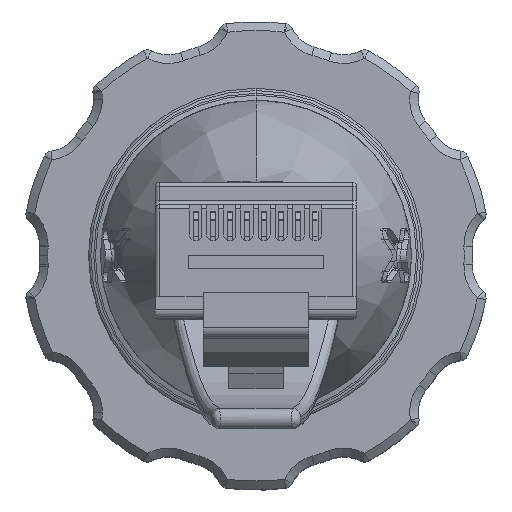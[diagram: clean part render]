
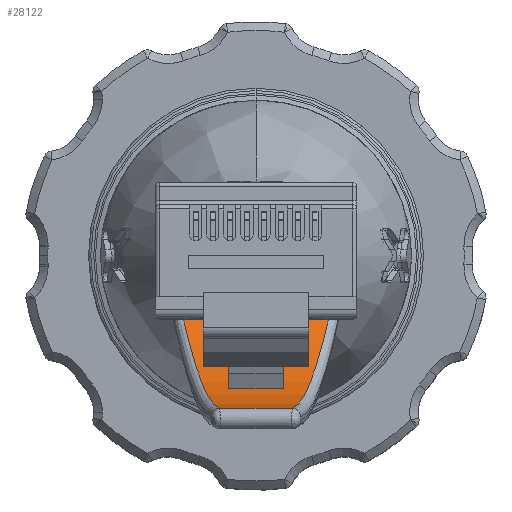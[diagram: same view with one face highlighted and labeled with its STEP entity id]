
A CAD part, top view. The second image highlights one B-rep face of the part: STEP entity #28122.
In plain terms, the highlighted cylindrical face has radius 12.299 mm (diameter 24.598 mm), a partial arc.
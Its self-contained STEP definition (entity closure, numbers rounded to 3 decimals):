
#797 = CARTESIAN_POINT ( 'NONE',  ( -4.027, -4.682, 167.442 ) ) ;
#860 = CARTESIAN_POINT ( 'NONE',  ( 2.098, -9.122, 176.296 ) ) ;
#1085 = CARTESIAN_POINT ( 'NONE',  ( -3.766, -5.697, 168.383 ) ) ;
#4336 = EDGE_CURVE ( 'NONE', #19164, #8318, #5344, .T. ) ;
#4975 = CARTESIAN_POINT ( 'NONE',  ( -3.853, -5.371, 168.057 ) ) ;
#5344 = LINE ( 'NONE', #860, #31312 ) ;
#5519 = CARTESIAN_POINT ( 'NONE',  ( 3.378, -3.936, 166.883 ) ) ;
#5587 = CARTESIAN_POINT ( 'NONE',  ( -2.185, -9.098, 175.829 ) ) ;
#6071 = CARTESIAN_POINT ( 'NONE',  ( 2.272, -9.048, 175.367 ) ) ;
#7046 = EDGE_CURVE ( 'NONE', #15784, #10971, #36913, .T. ) ;
#8318 = VERTEX_POINT ( 'NONE', #45910 ) ;
#9031 = CARTESIAN_POINT ( 'NONE',  ( 4.201, -3.936, 166.883 ) ) ;
#9496 = CARTESIAN_POINT ( 'NONE',  ( 3.378, 3.161, 176.928 ) ) ;
#10280 = CARTESIAN_POINT ( 'NONE',  ( 4.201, -3.936, 166.883 ) ) ;
#10971 = VERTEX_POINT ( 'NONE', #48935 ) ;
#11155 = CARTESIAN_POINT ( 'NONE',  ( 3.237, -7.386, 170.586 ) ) ;
#14866 = CARTESIAN_POINT ( 'NONE',  ( -2.272, -9.048, 175.367 ) ) ;
#15059 = CARTESIAN_POINT ( 'NONE',  ( 2.535, -8.791, 173.992 ) ) ;
#15163 = CARTESIAN_POINT ( 'NONE',  ( -4.114, -4.317, 167.152 ) ) ;
#15356 = CARTESIAN_POINT ( 'NONE',  ( 2.098, -9.122, 176.296 ) ) ;
#15784 = VERTEX_POINT ( 'NONE', #9031 ) ;
#18047 = B_SPLINE_CURVE_WITH_KNOTS ( 'NONE', 3,
 ( #10280, #33036, #33624, #51184, #28544, #28836, #29125, #24052, #11155, #42260, #38051, #15059, #47013, #6071, #56265, #15356 ),
 .UNSPECIFIED., .F., .F.,
 ( 4, 2, 2, 2, 2, 2, 2, 4 ),
 ( 0., 0.125, 0.25, 0.375, 0.5, 0.75, 0.875, 1. ),
 .UNSPECIFIED. ) ;
#18451 = DIRECTION ( 'NONE',  ( 0., -0.525, -0.851 ) ) ;
#18750 = DIRECTION ( 'NONE',  ( -1., 0., 0. ) ) ;
#19119 = DIRECTION ( 'NONE',  ( -1., 0., 0. ) ) ;
#19164 = VERTEX_POINT ( 'NONE', #20001 ) ;
#20001 = CARTESIAN_POINT ( 'NONE',  ( 2.098, -9.122, 176.296 ) ) ;
#20635 = B_SPLINE_CURVE_WITH_KNOTS ( 'NONE', 3,
 ( #42652, #5587, #14866, #56355, #32250, #56058, #51580, #33134, #32552, #47120, #51283, #1085, #4975, #797, #15163, #50986 ),
 .UNSPECIFIED., .F., .F.,
 ( 4, 2, 2, 2, 2, 2, 2, 4 ),
 ( 0., 0.125, 0.25, 0.5, 0.625, 0.75, 0.875, 1. ),
 .UNSPECIFIED. ) ;
#22034 = EDGE_LOOP ( 'NONE', ( #28978, #34955, #39107, #31516 ) ) ;
#24052 = CARTESIAN_POINT ( 'NONE',  ( 3.326, -7.138, 170.191 ) ) ;
#27438 = FACE_OUTER_BOUND ( 'NONE', #22034, .T. ) ;
#28122 = ADVANCED_FACE ( 'NONE', ( #27438 ), #36373, .F. ) ;
#28544 = CARTESIAN_POINT ( 'NONE',  ( 3.766, -5.697, 168.383 ) ) ;
#28836 = CARTESIAN_POINT ( 'NONE',  ( 3.591, -6.311, 169.069 ) ) ;
#28978 = ORIENTED_EDGE ( 'NONE', *, *, #41265, .F. ) ;
#29125 = CARTESIAN_POINT ( 'NONE',  ( 3.503, -6.6, 169.431 ) ) ;
#31312 = VECTOR ( 'NONE', #19119, 1000. ) ;
#31516 = ORIENTED_EDGE ( 'NONE', *, *, #4336, .F. ) ;
#32250 = CARTESIAN_POINT ( 'NONE',  ( -2.535, -8.791, 173.992 ) ) ;
#32552 = CARTESIAN_POINT ( 'NONE',  ( -3.326, -7.138, 170.191 ) ) ;
#33036 = CARTESIAN_POINT ( 'NONE',  ( 4.114, -4.317, 167.152 ) ) ;
#33134 = CARTESIAN_POINT ( 'NONE',  ( -3.237, -7.386, 170.586 ) ) ;
#33624 = CARTESIAN_POINT ( 'NONE',  ( 4.027, -4.682, 167.442 ) ) ;
#34955 = ORIENTED_EDGE ( 'NONE', *, *, #7046, .T. ) ;
#36373 = CYLINDRICAL_SURFACE ( 'NONE', #46017, 12.299 ) ;
#36913 = LINE ( 'NONE', #5519, #43043 ) ;
#38051 = CARTESIAN_POINT ( 'NONE',  ( 2.799, -8.408, 172.651 ) ) ;
#39107 = ORIENTED_EDGE ( 'NONE', *, *, #44380, .F. ) ;
#41265 = EDGE_CURVE ( 'NONE', #15784, #19164, #18047, .T. ) ;
#42018 = DIRECTION ( 'NONE',  ( -1., 0., 0. ) ) ;
#42260 = CARTESIAN_POINT ( 'NONE',  ( 2.973, -8.057, 171.799 ) ) ;
#42652 = CARTESIAN_POINT ( 'NONE',  ( -2.098, -9.122, 176.296 ) ) ;
#43043 = VECTOR ( 'NONE', #42018, 1000. ) ;
#44380 = EDGE_CURVE ( 'NONE', #8318, #10971, #20635, .T. ) ;
#45910 = CARTESIAN_POINT ( 'NONE',  ( -2.098, -9.122, 176.296 ) ) ;
#46017 = AXIS2_PLACEMENT_3D ( 'NONE', #9496, #18750, #18451 ) ;
#47013 = CARTESIAN_POINT ( 'NONE',  ( 2.446, -8.894, 174.449 ) ) ;
#47120 = CARTESIAN_POINT ( 'NONE',  ( -3.503, -6.6, 169.431 ) ) ;
#48935 = CARTESIAN_POINT ( 'NONE',  ( -4.201, -3.936, 166.883 ) ) ;
#50986 = CARTESIAN_POINT ( 'NONE',  ( -4.201, -3.936, 166.883 ) ) ;
#51184 = CARTESIAN_POINT ( 'NONE',  ( 3.853, -5.371, 168.057 ) ) ;
#51283 = CARTESIAN_POINT ( 'NONE',  ( -3.591, -6.311, 169.069 ) ) ;
#51580 = CARTESIAN_POINT ( 'NONE',  ( -2.973, -8.057, 171.799 ) ) ;
#56058 = CARTESIAN_POINT ( 'NONE',  ( -2.799, -8.408, 172.651 ) ) ;
#56265 = CARTESIAN_POINT ( 'NONE',  ( 2.185, -9.098, 175.829 ) ) ;
#56355 = CARTESIAN_POINT ( 'NONE',  ( -2.446, -8.894, 174.449 ) ) ;
